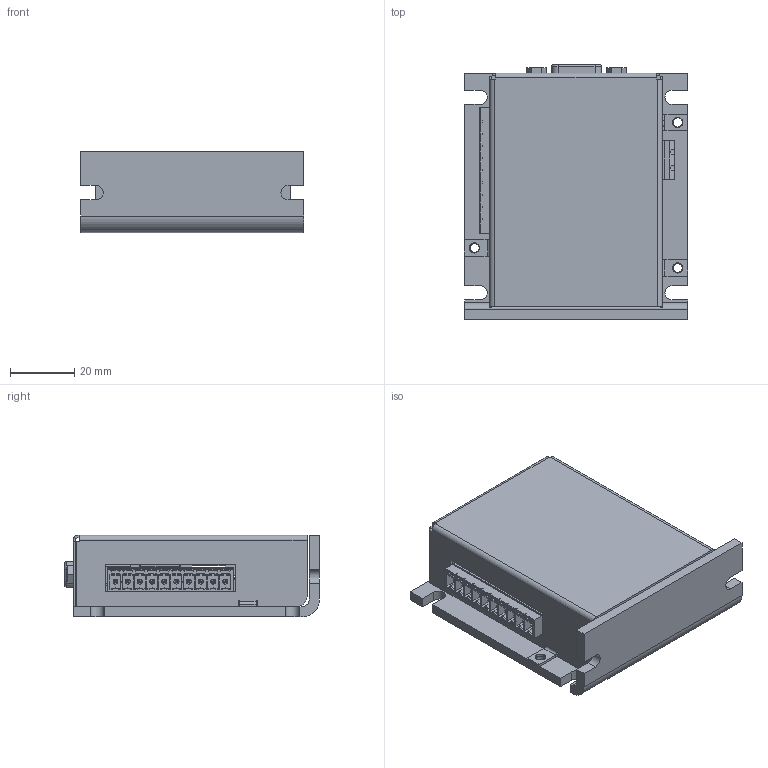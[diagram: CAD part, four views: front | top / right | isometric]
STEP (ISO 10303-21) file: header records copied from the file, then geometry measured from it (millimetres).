
FILE_DESCRIPTION (( 'STEP AP214' ), '1' );
FILE_NAME ('ACE-SXC-external.STEP', '2011-08-01T17:01:21', ( '' ), ( '' ), 'SwSTEP 2.0', 'SolidWorks 2011', '' );
FILE_SCHEMA (( 'AUTOMOTIVE_DESIGN' ));
Length unit declared in the file: inch
Products named in the file (9): SW3dPS-conn_usb_mini; SW3dPS-dsub9-RA-PCBMNT; SW3dPS-switch diptronics dtsa-62; SW3dPS-65-187, LED1x1,Y; mstba_2.5-2-g; mc_1_5-10-g-3_81; ACE-BASE-PLATE; ACE-SXC-COVER; ACE-SXC-external
Assembly tree (8 placements, depth 2):
  ACE-SXC-external
    ACE-SXC-COVER
    SW3dPS-65-187, LED1x1,Y
    ACE-BASE-PLATE
    SW3dPS-conn_usb_mini
    SW3dPS-dsub9-RA-PCBMNT
    mstba_2.5-2-g
    SW3dPS-switch diptronics dtsa-62
    mc_1_5-10-g-3_81
Bounding box: 69.85 x 79.45 x 25.4 mm (x, y, z)
Volume: 28247.7 mm3; surface area: 38400 mm2
Topology: 6 solids, 13 shells, 1414 faces, 3662 edges, 2367 vertices
Faces by surface type: plane 1016, cylinder 348, cone 30, bspline 20
Entity records: 62424 total; most frequent: CARTESIAN_POINT 9037, ORIENTED_EDGE 7194, DIRECTION 6924, EDGE_CURVE 3640, LINE 2804, VECTOR 2804, VERTEX_POINT 2367, AXIS2_PLACEMENT_3D 2060
